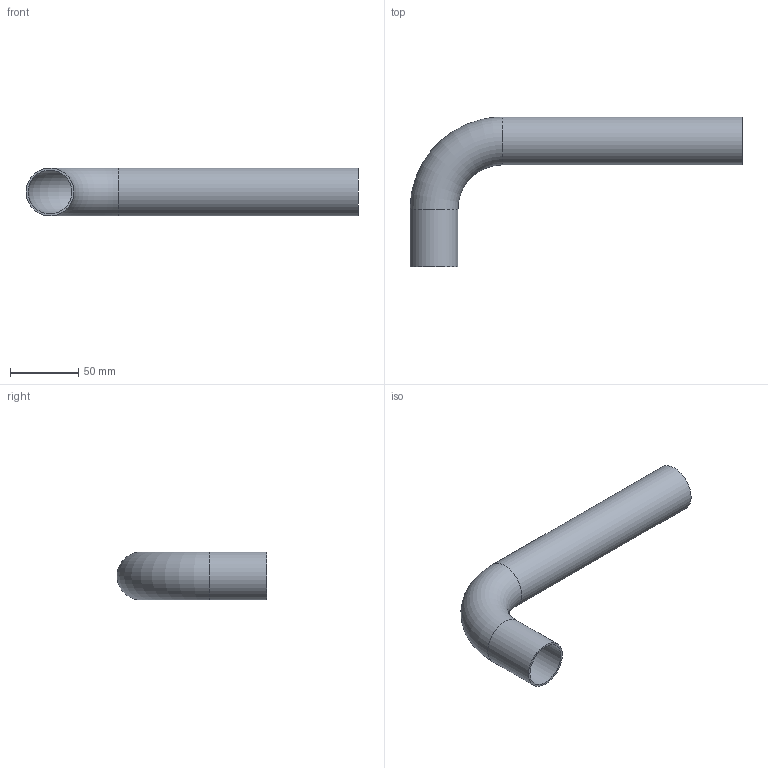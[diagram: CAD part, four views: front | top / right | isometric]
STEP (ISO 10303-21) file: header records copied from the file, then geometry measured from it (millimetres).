
FILE_DESCRIPTION((''),'2;1');
FILE_NAME('G:\Technics\CAD\Bauteile\035\6900335(0).stp','2008-02-28T09:21:03',('herberg'),(''),'Autodesk Inventor 2008','Autodesk Inventor 2008','');
FILE_SCHEMA(('AUTOMOTIVE_DESIGN { 1 0 10303 214 1 1 1 1 }'));
Length unit declared in the file: millimetre
Products named in the file (1): 6900335(0)
Bounding box: 242.5 x 109.5 x 35 mm (x, y, z)
Volume: 46655.4 mm3; surface area: 62522.9 mm2
Topology: 1 solids, 1 shells, 8 faces, 14 edges, 8 vertices
Faces by surface type: cylinder 4, torus 2, plane 2
Full cylindrical faces by diameter (mm): 32 x2, 35 x2
Entity records: 194 total; most frequent: DIRECTION 34, CARTESIAN_POINT 25, AXIS2_PLACEMENT_3D 17, ORIENTED_EDGE 16, EDGE_LOOP 16, VERTEX_POINT 8, CIRCLE 8, EDGE_CURVE 8
